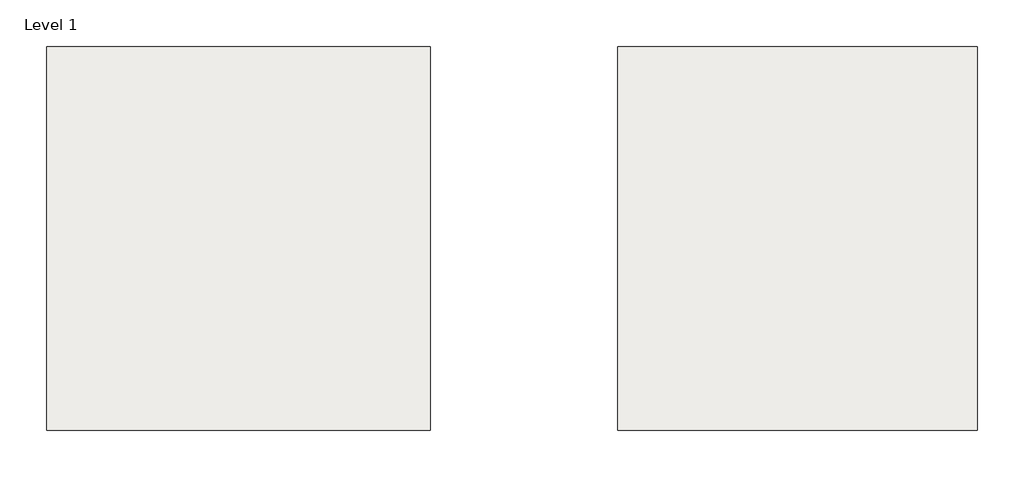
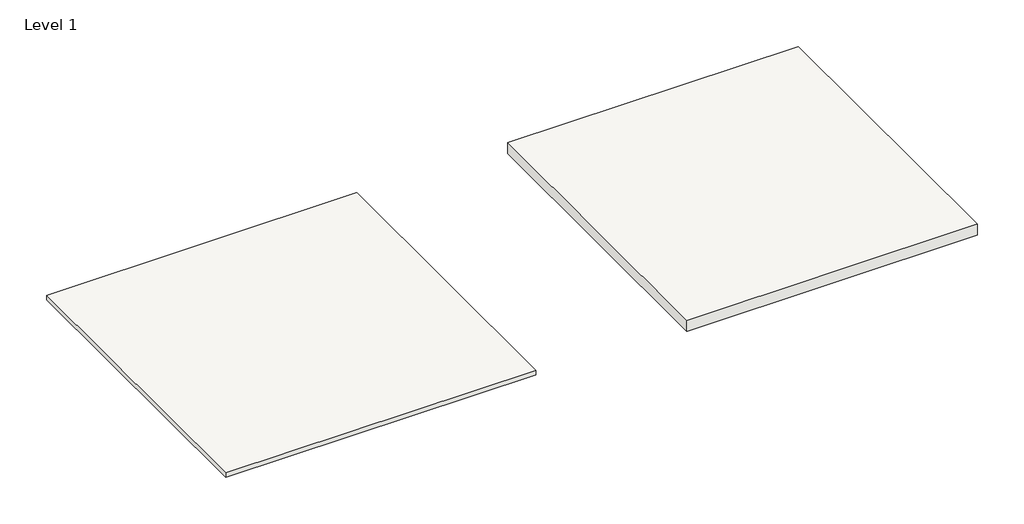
# One storey: 2 slabs.
"""IFC4 building model written with IfcOpenShell, lengths in millimetres."""

from ifc_helpers import new_model, si_unit, frame, origin, place, context, project, spatial, polyline, outline, extrude, element, save

model = new_model("IFC4")

# Units and contexts
model_context = context("Model", 3, world=origin())
ifc_project = project(units=[si_unit("LENGTHUNIT", "METRE", prefix="MILLI")], contexts=[model_context])

# Site, building, storey
site = spatial("IfcSite", under=ifc_project)
building = spatial("IfcBuilding", under=site)
storey = spatial("IfcBuildingStorey", under=building, Name="Level 1", Elevation=0.0)

# Slabs
placement = place(None, origin())
element("IfcSlab", 1, ObjectType="150mm Foundation Slab", at=placement, inside=storey, context=model_context, shape_type="SweptSolid", body=[
    extrude(outline(polyline([(3757.334961, 6177.3227938), (3757.334961, -3422.6772062), (-5842.665039, -3422.6772062), (-5842.665039, 6177.3227938), (3757.334961, 6177.3227938)])), frame((0.0, 0.0, -150.0), z_axis=(0.0, 0.0, 1.0), x_axis=(1.0, 0.0, 0.0)), (0.0, 0.0, 1.0), 150.0),
])
element("IfcSlab", 2, ObjectType="Concrete-Commercial 362mm", at=placement, inside=storey, context=model_context, shape_type="SweptSolid", body=[
    extrude(outline(polyline([(17440.4984146, 6177.3227938), (17440.4984146, -3422.6772062), (8440.4984146, -3422.6772062), (8440.4984146, 6177.3227938), (17440.4984146, 6177.3227938)])), frame((0.0, 0.0, -362.0), z_axis=(0.0, 0.0, 1.0), x_axis=(1.0, 0.0, 0.0)), (0.0, 0.0, 1.0), 362.0),
])

save(model, "model.ifc")
